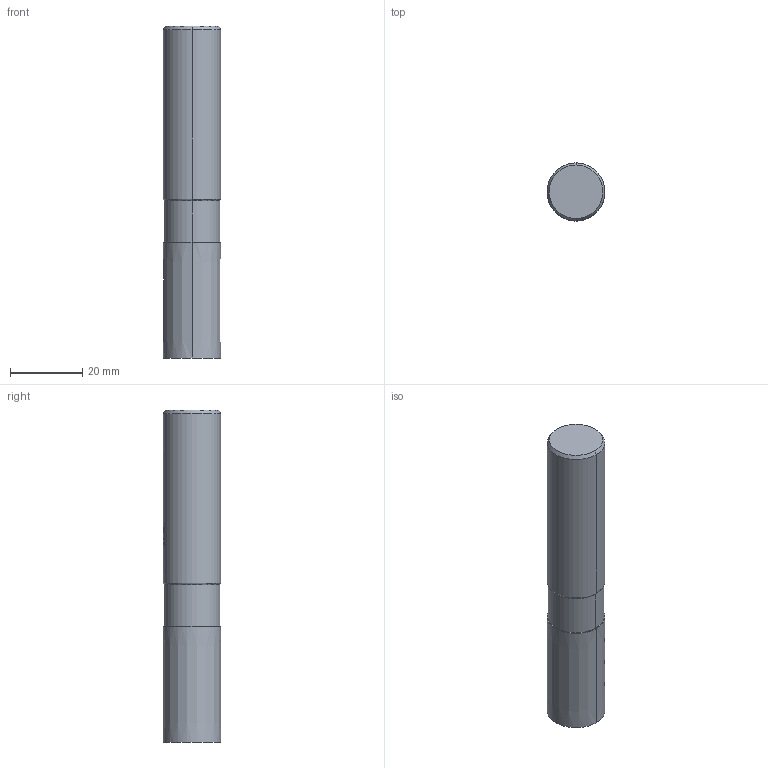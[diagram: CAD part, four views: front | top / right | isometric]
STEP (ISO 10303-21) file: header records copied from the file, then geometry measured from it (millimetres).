
FILE_DESCRIPTION(('no description'),'unknown implementation level');
FILE_NAME('solid3bYP8Q2ZYX8wCtCvjMlAASLexKs_1.STP',' ',('CIMSOURCE GmbH'),('CADClick - KiM GmbH - www.kimweb.de'),'unknown preprocess','ACIS','unknown authorization');
FILE_SCHEMA(('automotive_design'));
Length unit declared in the file: millimetre
Products named in the file (2): NOCUT; CUT
Bounding box: 16 x 16 x 92 mm (x, y, z)
Volume: 18336.4 mm3; surface area: 7091.4 mm2
Topology: 2 solids, 2 shells, 41 faces, 93 edges, 58 vertices
Faces by surface type: cylinder 16, cone 14, plane 11
Entity records: 2552 total; most frequent: CARTESIAN_POINT 478, DIRECTION 211, STYLED_ITEM 194, PRESENTATION_STYLE_ASSIGNMENT 194, COLOUR_RGB 194, ORIENTED_EDGE 186, EDGE_CURVE 93, CURVE_STYLE 93
